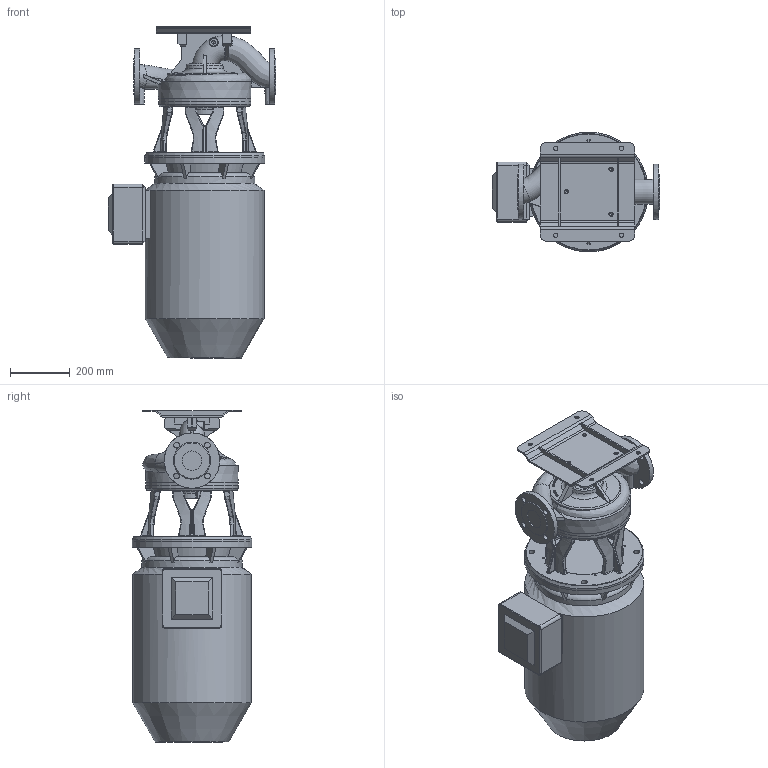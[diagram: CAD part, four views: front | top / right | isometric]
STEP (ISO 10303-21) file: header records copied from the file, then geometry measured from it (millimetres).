
FILE_DESCRIPTION (( 'STEP AP203' ), '1' );
FILE_NAME ('KI65-220_2_30kW.STEP', '2024-07-30T06:40:14', ( '' ), ( '' ), 'SwSTEP 2.0', 'SolidWorks 2023', '' );
FILE_SCHEMA (( 'CONFIG_CONTROL_DESIGN' ));
Length unit declared in the file: millimetre
Products named in the file (11): 230521; 220531; 230569; KI65-220_2_30kW; 230572; 230170; 230033; 440130_solid; 230171; 230520; 220533
Assembly tree (11 placements, depth 3):
  KI65-220_2_30kW
    440130_solid
    230521
      230520
    230569
      230572
    220533
      220531
    230171
      230170
      230033  x2
Bounding box: 559.5 x 400 x 1108.45 mm (x, y, z)
Volume: 93637818.9 mm3; surface area: 2592479.9 mm2
Topology: 7 solids, 7 shells, 1032 faces, 2644 edges, 1624 vertices
Faces by surface type: bspline 378, plane 320, cylinder 185, cone 86, torus 61, sphere 2
Full cylindrical faces by diameter (mm): 6 x2, 6.8 x8, 10 x4, 10.2 x11, 11.445 x1, 11.8 x3, 14 x16, 14.5 x7, 18.5 x4, 19 x12, 65 x2, 185 x2, 225 x1, 243 x1, 255 x2, 256 x1, 300 x1, 308 x2, 335 x1, 398 x1, 400 x2
Entity records: 96761 total; most frequent: CARTESIAN_POINT 74792, ORIENTED_EDGE 4814, DIRECTION 3309, EDGE_CURVE 2407, VERTEX_POINT 1556, AXIS2_PLACEMENT_3D 1312, EDGE_LOOP 1299, FACE_OUTER_BOUND 1115
